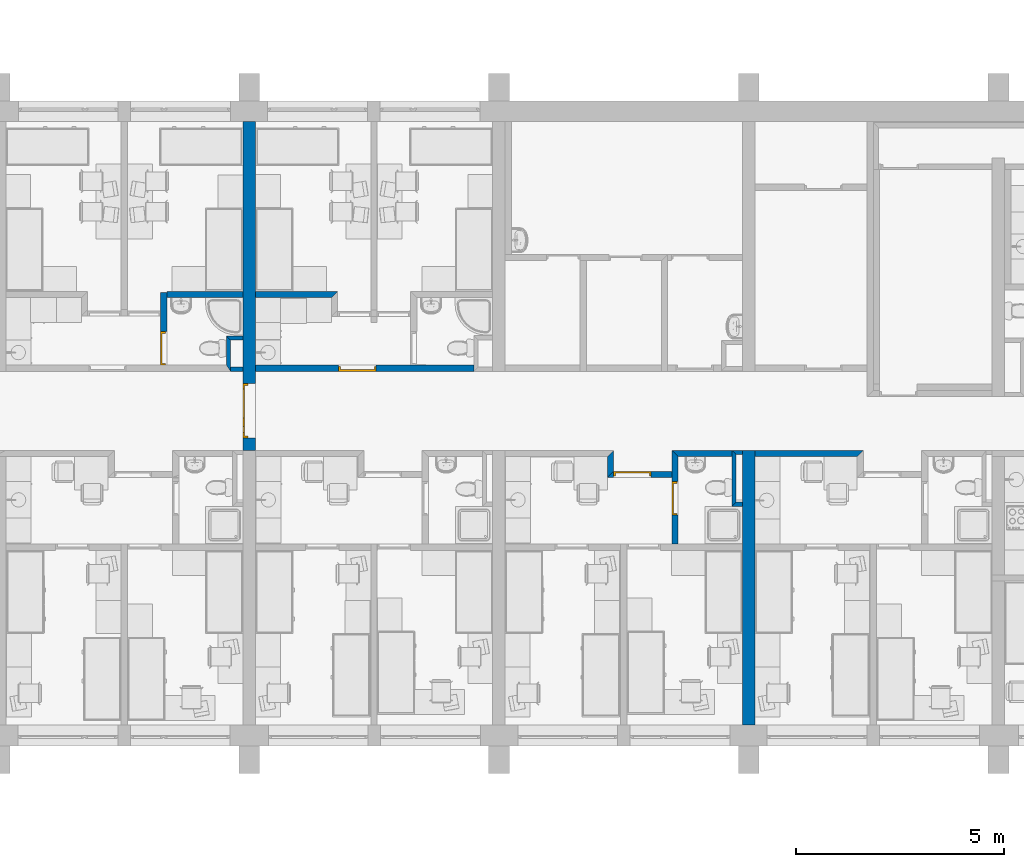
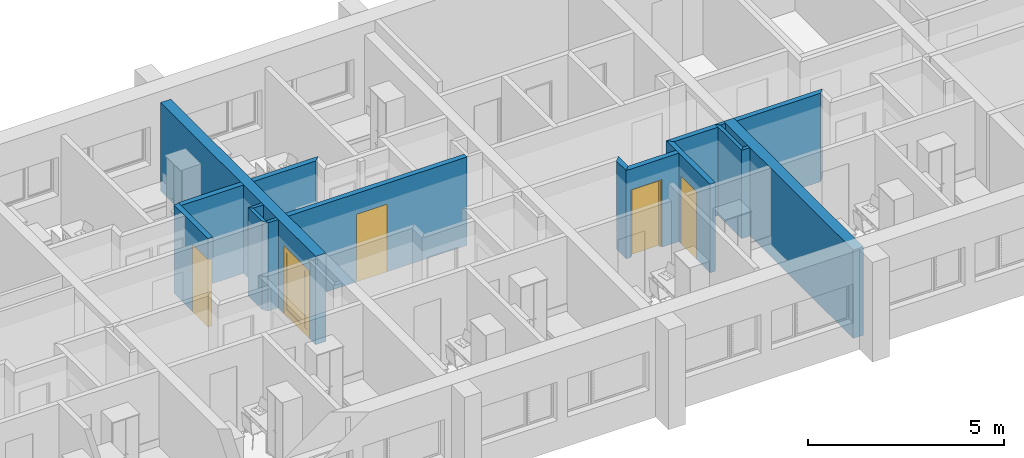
# One storey, part 7 of 172: 17 walls, 5 doors, 5 openings.
"""IFC2X3 building model written with IfcOpenShell, lengths in millimetres."""

from ifc_helpers import new_model, entity, si_unit, converted_unit, money_unit, direction, frame, origin_with_axes, place, context, subcontext, project, spatial, polyline, outline, extrude, open_shell, faceted_brep, surface_model, source, transform, mapped, material, material_list, layer, layer_set, layer_usage, type_object, element, fill, save


model = new_model("IFC2X3")

# Units and contexts
model_context = context("Model", 3, precision=1e-05, world=origin_with_axes(), true_north=direction((0.0, 1.0)))
body_context = subcontext(model_context, "Body", "Model", "MODEL_VIEW")
ifc_project = project(units=[si_unit("LENGTHUNIT", "METRE", prefix="MILLI"), si_unit("AREAUNIT", "SQUARE_METRE"), si_unit("VOLUMEUNIT", "CUBIC_METRE"), converted_unit("PLANEANGLEUNIT", "DEGREE", entity("IfcPlaneAngleMeasure", 0.0174532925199), si_unit("PLANEANGLEUNIT", "RADIAN"), dimensions=[0, 0, 0, 0, 0, 0, 0]), si_unit("SOLIDANGLEUNIT", "STERADIAN"), money_unit("USD"), converted_unit("TIMEUNIT", "Year", entity("IfcTimeMeasure", 31556926.0), si_unit("TIMEUNIT", "SECOND"), dimensions=[0, 0, 0, 0, 0, 0, 0]), si_unit("MASSUNIT", "GRAM"), si_unit("THERMODYNAMICTEMPERATUREUNIT", "DEGREE_CELSIUS"), si_unit("LUMINOUSINTENSITYUNIT", "LUMEN")], contexts=[model_context])

# Site, building, storey
site_placement = place(None, origin_with_axes())
site = spatial("IfcSite", under=ifc_project, at=site_placement, Name="Site", CompositionType="ELEMENT")
building_placement = place(site_placement, origin_with_axes())
building = spatial("IfcBuilding", under=site, at=building_placement, Name="Building", CompositionType="ELEMENT")
storey_placement = place(building_placement, frame((0.0, 0.0, 3200.0), z_axis=(0.0, 0.0, 1.0), x_axis=(1.0, 0.0, 0.0)))
storey = spatial("IfcBuildingStorey", under=building, at=storey_placement, Name="3KORRUS", CompositionType="ELEMENT", Elevation=3200.0)

# Wall, opening, door
ifc_material_1 = material(Name="UmbKipsplaat")
ifc_layer_1 = layer(ifc_material_1, 13.0, ventilated="UNKNOWN")
ifc_layer_2 = layer(ifc_material_1, 13.0, ventilated="UNKNOWN")
ifc_material_2 = material(Name="SOOJUSTUS MINERAALVILL")
ifc_layer_3 = layer(ifc_material_2, 98.0, ventilated="UNKNOWN")
ifc_layer_4 = layer(ifc_material_1, 13.0, ventilated="UNKNOWN")
ifc_layer_5 = layer(ifc_material_1, 13.0, ventilated="UNKNOWN")
ifc_layer_set_1 = layer_set([ifc_layer_1, ifc_layer_2, ifc_layer_3, ifc_layer_4, ifc_layer_5], Name="kipssein150")
ifc_layer_usage_1 = layer_usage(ifc_layer_set_1, "AXIS2", "POSITIVE", -150.0)
wall_type_1 = type_object("IfcWallType", Name="kipssein150 150", PredefinedType="NOTDEFINED")
wall_1_placement = place(storey_placement, frame((-25984.201689, -15289.2398994, 0.0), z_axis=(0.0, 0.0, 1.0), x_axis=(0.0, 1.0, 0.0)))
wall_1 = element("IfcWallStandardCase", 1, at=wall_1_placement, inside=storey, type_object=wall_type_1, material=ifc_layer_usage_1, Name="SS1", ObjectType="SS1", context=body_context, shape_type="SweptSolid", body=[
    extrude(outline(polyline([(0.0, -150.0), (2099.8693268, -150.0), (2249.8693268, 0.0), (0.0, 0.0), (0.0, -150.0)])), origin_with_axes(), (0.0, 0.0, 1.0), 2750.0),
])
opening_1_placement = place(wall_1_placement, frame((1099.78749111, 0.0, 0.0), z_axis=(0.0, 0.0, 1.0), x_axis=(1.0, 0.0, 0.0)))
opening_1 = element("IfcOpeningElement", 2, at=opening_1_placement, cuts=wall_1, Name="SU3-2", context=body_context, shape_type="SweptSolid", body=[
    extrude(outline(polyline([(-400.0, -2100.0), (400.0, -2100.0), (400.0, 0.0), (-400.0, 0.0), (-400.0, -2100.0)])), frame((0.0, -150.0, 0.0), z_axis=(0.0, 1.0, 0.0), x_axis=(1.0, 0.0, 0.0)), (0.0, 0.0, 1.0), 450.0),
])
ifc_material_3 = material(Name="Background")
ifc_material_list = material_list([ifc_material_3])
door_style_1 = type_object("IfcDoorStyle", Name="Door 19", ConstructionType="NOTDEFINED", OperationType="SINGLE_SWING_RIGHT", ParameterTakesPrecedence=False, Sizeable=False)
shared_shape_1 = source(origin_with_axes(), body_context, "Body", "Brep", [
    faceted_brep([(-360.0, -40.0, 0.0), (-360.0, -40.0, 2060.0), (-360.0, -115.0, 2060.0), (-360.0, -115.0, 0.0), (-372.0, -40.0, 2060.0), (-372.0, -40.0, 0.0), (-372.0, 0.0, 2060.0), (-400.0, 0.0, 2060.0), (-400.0, -115.0, 2060.0), (-400.0, -115.0, 0.0), (-400.0, 0.0, 0.0), (-372.0, 0.0, 0.0)], [[[0, 1, 2, 3]], [[4, 1, 0, 5]], [[4, 6, 7, 8, 2, 1]], [[2, 8, 9, 3]], [[5, 0, 3, 9, 10, 11]], [[6, 4, 5, 11]], [[6, 11, 10, 7]], [[9, 8, 7, 10]]]),
    faceted_brep([(372.0, -40.0, 2060.0), (360.0, -40.0, 2060.0), (360.0, -115.0, 2060.0), (400.0, -115.0, 2060.0), (400.0, 0.0, 2060.0), (372.0, 0.0, 2060.0), (372.0, -40.0, 0.0), (360.0, -40.0, 0.0), (360.0, -115.0, 0.0), (400.0, -115.0, 0.0), (400.0, 0.0, 0.0), (372.0, 0.0, 0.0)], [[[0, 1, 2, 3, 4, 5]], [[1, 0, 6, 7]], [[1, 7, 8, 2]], [[2, 8, 9, 3]], [[3, 9, 10, 4]], [[11, 5, 4, 10]], [[0, 5, 11, 6]], [[6, 11, 10, 9, 8, 7]]]),
    faceted_brep([(-372.0, 0.0, 2072.0), (-372.0, 0.0, 2060.0), (-400.0, 0.0, 2060.0), (-400.0, 0.0, 2100.0), (400.0, 0.0, 2100.0), (400.0, 0.0, 2060.0), (372.0, 0.0, 2060.0), (372.0, 0.0, 2072.0), (-372.0, -40.0, 2072.0), (-372.0, -40.0, 2060.0), (-360.0, -40.0, 2060.0), (-360.0, -115.0, 2060.0), (-400.0, -115.0, 2060.0), (-400.0, -115.0, 2100.0), (400.0, -115.0, 2100.0), (400.0, -115.0, 2060.0), (372.0, -40.0, 2060.0), (360.0, -115.0, 2060.0), (360.0, -40.0, 2060.0), (372.0, -40.0, 2072.0)], [[[0, 1, 2, 3, 4, 5, 6, 7]], [[1, 0, 8, 9]], [[9, 10, 11, 12, 2, 1]], [[12, 13, 3, 2]], [[13, 14, 4, 3]], [[14, 15, 5, 4]], [[16, 6, 5, 15, 17, 18]], [[7, 6, 16, 19]], [[0, 7, 19, 8]], [[16, 18, 10, 9, 8, 19]], [[10, 18, 17, 11]], [[15, 14, 13, 12, 11, 17]]]),
    faceted_brep([(372.0, 0.0, 0.0), (372.0, -40.0, 0.0), (-372.0, -40.0, 0.0), (-372.0, 0.0, 0.0), (372.0, 0.0, 2072.0), (372.0, -40.0, 2072.0), (-372.0, -40.0, 2072.0), (-372.0, 0.0, 2072.0)], [[[0, 1, 2, 3]], [[4, 5, 1, 0]], [[1, 5, 6, 2]], [[3, 2, 6, 7]], [[0, 3, 7, 4]], [[7, 6, 5, 4]]]),
])
door_1_placement = place(opening_1_placement, frame((-400.0, 0.0, 0.0), z_axis=(0.0, 0.0, 1.0), x_axis=(1.0, 0.0, 0.0)))
door_1 = element("IfcDoor", 3, at=door_1_placement, inside=storey, type_object=door_style_1, material=ifc_material_list, Name="SU3-2", ObjectType="WC-uks", OverallHeight=2100.0, OverallWidth=800.0, context=body_context, shape_type="MappedRepresentation", body=[
    mapped(shared_shape_1, transform((400.0, 0.0, 0.0))),
])
fill(opening_1, door_1)

ifc_layer_usage_2 = layer_usage(ifc_layer_set_1, "AXIS2", "POSITIVE", 0.0)
wall_2_placement = place(storey_placement, frame((-25984.201689, -13539.4524083, 0.0), z_axis=(0.0, 0.0, 1.0), x_axis=(-1.0, 0.0, 0.0)))
wall_2 = element("IfcWallStandardCase", 4, at=wall_2_placement, inside=storey, type_object=wall_type_1, material=ifc_layer_usage_2, Name="SS1", ObjectType="SS1", context=body_context, shape_type="SweptSolid", body=[
    extrude(outline(polyline([(0.0, 0.0), (1399.6606794, 0.0), (1549.6606794, 150.0), (0.0, 150.0), (0.0, 0.0)])), origin_with_axes(), (0.0, 0.0, 1.0), 2750.0),
])
opening_2_placement = place(wall_2_placement, frame((949.660679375, 0.0, 0.0), z_axis=(0.0, 0.0, 1.0), x_axis=(1.0, 0.0, 0.0)))
opening_2 = element("IfcOpeningElement", 5, at=opening_2_placement, cuts=wall_2, Name="SU2-6", context=body_context, shape_type="SweptSolid", body=[
    extrude(outline(polyline([(-450.0, -2100.0), (450.0, -2100.0), (450.0, 0.0), (-450.0, 0.0), (-450.0, -2100.0)])), frame((0.0, 150.0, 0.0), z_axis=(0.0, 1.0, 0.0), x_axis=(1.0, 0.0, 0.0)), (0.0, 0.0, -1.0), 450.0),
])
door_style_2 = type_object("IfcDoorStyle", Name="Door 19", ConstructionType="NOTDEFINED", OperationType="SINGLE_SWING_LEFT", ParameterTakesPrecedence=False, Sizeable=False)
shared_shape_2 = source(origin_with_axes(), body_context, "Body", "Brep", [
    faceted_brep([(410.0, -40.0, 0.0), (410.0, -115.0, 0.0), (410.0, -115.0, 2060.0), (410.0, -40.0, 2060.0), (422.0, -40.0, 0.0), (422.0, 0.0, 0.0), (450.0, 0.0, 0.0), (450.0, -115.0, 0.0), (450.0, -115.0, 2060.0), (422.0, -40.0, 2060.0), (450.0, 0.0, 2060.0), (422.0, 0.0, 2060.0)], [[[0, 1, 2, 3]], [[4, 5, 6, 7, 1, 0]], [[2, 1, 7, 8]], [[9, 3, 2, 8, 10, 11]], [[9, 4, 0, 3]], [[11, 5, 4, 9]], [[11, 10, 6, 5]], [[7, 6, 10, 8]]]),
    faceted_brep([(-422.0, -40.0, 2060.0), (-422.0, 0.0, 2060.0), (-450.0, 0.0, 2060.0), (-450.0, -115.0, 2060.0), (-410.0, -115.0, 2060.0), (-410.0, -40.0, 2060.0), (-422.0, -40.0, 0.0), (-422.0, 0.0, 0.0), (-450.0, 0.0, 0.0), (-450.0, -115.0, 0.0), (-410.0, -115.0, 0.0), (-410.0, -40.0, 0.0)], [[[0, 1, 2, 3, 4, 5]], [[0, 6, 7, 1]], [[7, 8, 2, 1]], [[3, 2, 8, 9]], [[4, 3, 9, 10]], [[5, 4, 10, 11]], [[5, 11, 6, 0]], [[6, 11, 10, 9, 8, 7]]]),
    faceted_brep([(422.0, 0.0, 2072.0), (-422.0, 0.0, 2072.0), (-422.0, 0.0, 2060.0), (-450.0, 0.0, 2060.0), (-450.0, 0.0, 2100.0), (450.0, 0.0, 2100.0), (450.0, 0.0, 2060.0), (422.0, 0.0, 2060.0), (422.0, -40.0, 2072.0), (-422.0, -40.0, 2072.0), (-422.0, -40.0, 2060.0), (-410.0, -40.0, 2060.0), (-410.0, -115.0, 2060.0), (-450.0, -115.0, 2060.0), (-450.0, -115.0, 2100.0), (450.0, -115.0, 2100.0), (450.0, -115.0, 2060.0), (422.0, -40.0, 2060.0), (410.0, -115.0, 2060.0), (410.0, -40.0, 2060.0)], [[[0, 1, 2, 3, 4, 5, 6, 7]], [[0, 8, 9, 1]], [[1, 9, 10, 2]], [[10, 11, 12, 13, 3, 2]], [[14, 4, 3, 13]], [[15, 5, 4, 14]], [[16, 6, 5, 15]], [[17, 7, 6, 16, 18, 19]], [[7, 17, 8, 0]], [[10, 9, 8, 17, 19, 11]], [[19, 18, 12, 11]], [[13, 12, 18, 16, 15, 14]]]),
    faceted_brep([(-422.0, 0.0, 0.0), (422.0, 0.0, 0.0), (422.0, -40.0, 0.0), (-422.0, -40.0, 0.0), (-422.0, 0.0, 2072.0), (422.0, 0.0, 2072.0), (422.0, -40.0, 2072.0), (-422.0, -40.0, 2072.0)], [[[0, 1, 2, 3]], [[0, 4, 5, 1]], [[1, 5, 6, 2]], [[3, 2, 6, 7]], [[4, 0, 3, 7]], [[5, 4, 7, 6]]]),
])
door_2_placement = place(opening_2_placement, frame((450.0, 0.0, 0.0), z_axis=(0.0, 0.0, 1.0), x_axis=(-1.0, 0.0, 0.0)))
door_2 = element("IfcDoor", 6, at=door_2_placement, inside=storey, type_object=door_style_2, material=ifc_material_list, Name="SU2-6", ObjectType="Korteri välisuks", OverallHeight=2100.0, OverallWidth=900.0, context=body_context, shape_type="MappedRepresentation", body=[
    mapped(shared_shape_2, transform((450.0, 0.0, 0.0))),
])
fill(opening_2, door_2)

# Walls
ifc_layer_usage_3 = layer_usage(ifc_layer_set_1, "AXIS2", "POSITIVE", 0.0)
wall_3_placement = place(storey_placement, frame((-38271.5850987, -9367.37850445, 0.0), z_axis=(0.0, 0.0, 1.0), x_axis=(1.0, 0.0, 0.0)))
element("IfcWallStandardCase", 7, at=wall_3_placement, inside=storey, type_object=wall_type_1, material=ifc_layer_usage_3, Name="SS1", ObjectType="SS1", context=body_context, shape_type="SweptSolid", body=[
    extrude(outline(polyline([(150.0, 0.0), (1981.2883954, 0.0), (1981.2883954, 150.0), (150.0, 150.0), (150.0, 0.0)])), origin_with_axes(), (0.0, 0.0, 1.0), 2750.0),
])
ifc_layer_usage_4 = layer_usage(ifc_layer_set_1, "AXIS2", "POSITIVE", -150.0)
wall_4_placement = place(storey_placement, frame((-25984.201689, -13039.3705726, 0.0), z_axis=(0.0, 0.0, 1.0), x_axis=(1.0, 0.0, 0.0)))
element("IfcWallStandardCase", 8, at=wall_4_placement, inside=storey, type_object=wall_type_1, material=ifc_layer_usage_4, Name="SS1", ObjectType="SS1", context=body_context, shape_type="SweptSolid", body=[
    extrude(outline(polyline([(150.0, -150.0), (1444.19338105, -150.0), (1444.19338105, 0.0), (0.0, 0.0), (150.0, -150.0)])), origin_with_axes(), (0.0, 0.0, 1.0), 2750.0),
])
ifc_layer_usage_5 = layer_usage(ifc_layer_set_1, "AXIS2", "POSITIVE", 0.0)
wall_5_placement = place(storey_placement, frame((-27533.8623684, -13039.2398994, 0.0), z_axis=(0.0, 0.0, 1.0), x_axis=(0.0, -1.0, 0.0)))
element("IfcWallStandardCase", 9, at=wall_5_placement, inside=storey, type_object=wall_type_1, material=ifc_layer_usage_5, Name="SS1", ObjectType="SS1", context=body_context, shape_type="SweptSolid", body=[
    extrude(outline(polyline([(150.0, 0.0), (650.2125089, 0.0), (500.2125089, 150.0), (0.0, 150.0), (150.0, 0.0)])), origin_with_axes(), (0.0, 0.0, 1.0), 2750.0),
])

# Wall, opening, door
ifc_layer_usage_6 = layer_usage(ifc_layer_set_1, "AXIS2", "POSITIVE", 0.0)
wall_6_placement = place(storey_placement, frame((-38271.5850987, -9243.37850445, 0.0), z_axis=(0.0, 0.0, 1.0), x_axis=(0.0, -1.0, 0.0)))
wall_6 = element("IfcWallStandardCase", 10, at=wall_6_placement, inside=storey, type_object=wall_type_1, material=ifc_layer_usage_6, Name="SS1", ObjectType="SS1", context=body_context, shape_type="SweptSolid", body=[
    extrude(outline(polyline([(0.0, 0.0), (1743.22560435, 0.0), (1743.22560435, 150.0), (0.0, 150.0), (0.0, 0.0)])), origin_with_axes(), (0.0, 0.0, 1.0), 2750.0),
])
opening_3_placement = place(wall_6_placement, frame((1343.22560435, 0.0, 0.0), z_axis=(0.0, 0.0, 1.0), x_axis=(1.0, 0.0, 0.0)))
opening_3 = element("IfcOpeningElement", 11, at=opening_3_placement, cuts=wall_6, Name="SU3-3", context=body_context, shape_type="SweptSolid", body=[
    extrude(outline(polyline([(-400.0, -2100.0), (400.0, -2100.0), (400.0, 0.0), (-400.0, 0.0), (-400.0, -2100.0)])), frame((0.0, 150.0, 0.0), z_axis=(0.0, 1.0, 0.0), x_axis=(1.0, 0.0, 0.0)), (0.0, 0.0, -1.0), 450.0),
])
shared_shape_3 = source(origin_with_axes(), body_context, "Body", "Brep", [
    faceted_brep([(360.0, -40.0, 0.0), (360.0, -115.0, 0.0), (360.0, -115.0, 2060.0), (360.0, -40.0, 2060.0), (372.0, -40.0, 0.0), (372.0, 0.0, 0.0), (400.0, 0.0, 0.0), (400.0, -115.0, 0.0), (400.0, -115.0, 2060.0), (372.0, -40.0, 2060.0), (400.0, 0.0, 2060.0), (372.0, 0.0, 2060.0)], [[[0, 1, 2, 3]], [[4, 5, 6, 7, 1, 0]], [[2, 1, 7, 8]], [[9, 3, 2, 8, 10, 11]], [[9, 4, 0, 3]], [[11, 5, 4, 9]], [[11, 10, 6, 5]], [[7, 6, 10, 8]]]),
    faceted_brep([(-372.0, -40.0, 2060.0), (-372.0, 0.0, 2060.0), (-400.0, 0.0, 2060.0), (-400.0, -115.0, 2060.0), (-360.0, -115.0, 2060.0), (-360.0, -40.0, 2060.0), (-372.0, -40.0, 0.0), (-372.0, 0.0, 0.0), (-400.0, 0.0, 0.0), (-400.0, -115.0, 0.0), (-360.0, -115.0, 0.0), (-360.0, -40.0, 0.0)], [[[0, 1, 2, 3, 4, 5]], [[0, 6, 7, 1]], [[7, 8, 2, 1]], [[3, 2, 8, 9]], [[4, 3, 9, 10]], [[5, 4, 10, 11]], [[5, 11, 6, 0]], [[6, 11, 10, 9, 8, 7]]]),
    faceted_brep([(372.0, 0.0, 2072.0), (-372.0, 0.0, 2072.0), (-372.0, 0.0, 2060.0), (-400.0, 0.0, 2060.0), (-400.0, 0.0, 2100.0), (400.0, 0.0, 2100.0), (400.0, 0.0, 2060.0), (372.0, 0.0, 2060.0), (372.0, -40.0, 2072.0), (-372.0, -40.0, 2072.0), (-372.0, -40.0, 2060.0), (-360.0, -40.0, 2060.0), (-360.0, -115.0, 2060.0), (-400.0, -115.0, 2060.0), (-400.0, -115.0, 2100.0), (400.0, -115.0, 2100.0), (400.0, -115.0, 2060.0), (372.0, -40.0, 2060.0), (360.0, -115.0, 2060.0), (360.0, -40.0, 2060.0)], [[[0, 1, 2, 3, 4, 5, 6, 7]], [[0, 8, 9, 1]], [[1, 9, 10, 2]], [[10, 11, 12, 13, 3, 2]], [[14, 4, 3, 13]], [[15, 5, 4, 14]], [[16, 6, 5, 15]], [[17, 7, 6, 16, 18, 19]], [[7, 17, 8, 0]], [[10, 9, 8, 17, 19, 11]], [[19, 18, 12, 11]], [[13, 12, 18, 16, 15, 14]]]),
    faceted_brep([(-372.0, 0.0, 0.0), (372.0, 0.0, 0.0), (372.0, -40.0, 0.0), (-372.0, -40.0, 0.0), (-372.0, 0.0, 2072.0), (372.0, 0.0, 2072.0), (372.0, -40.0, 2072.0), (-372.0, -40.0, 2072.0)], [[[0, 1, 2, 3]], [[0, 4, 5, 1]], [[1, 5, 6, 2]], [[3, 2, 6, 7]], [[4, 0, 3, 7]], [[5, 4, 7, 6]]]),
])
door_3_placement = place(opening_3_placement, frame((400.0, 0.0, 0.0), z_axis=(0.0, 0.0, 1.0), x_axis=(-1.0, 0.0, 0.0)))
door_3 = element("IfcDoor", 12, at=door_3_placement, inside=storey, type_object=door_style_2, material=ifc_material_list, Name="SU3-3", ObjectType="WC-uks", OverallHeight=2100.0, OverallWidth=800.0, context=body_context, shape_type="MappedRepresentation", body=[
    mapped(shared_shape_3, transform((400.0, 0.0, 0.0))),
])
fill(opening_3, door_3)

ifc_layer_usage_7 = layer_usage(ifc_layer_set_1, "AXIS2", "POSITIVE", 0.0)
wall_7_placement = place(storey_placement, frame((-35990.2967033, -11136.6041088, 0.0), z_axis=(0.0, 0.0, 1.0), x_axis=(1.0, 0.0, 0.0)))
wall_7 = element("IfcWallStandardCase", 13, at=wall_7_placement, inside=storey, type_object=wall_type_1, material=ifc_layer_usage_7, Name="SS1", ObjectType="SS1", context=body_context, shape_type="SweptSolid", body=[
    extrude(outline(polyline([(0.0, 0.0), (5250.0, 0.0), (5250.0, 150.0), (0.0, 150.0), (0.0, 0.0)])), origin_with_axes(), (0.0, 0.0, 1.0), 2750.0),
])
opening_4_placement = place(wall_7_placement, frame((2449.55318041, 0.0, 0.0), z_axis=(0.0, 0.0, 1.0), x_axis=(1.0, 0.0, 0.0)))
opening_4 = element("IfcOpeningElement", 14, at=opening_4_placement, cuts=wall_7, Name="SU2-6", context=body_context, shape_type="SweptSolid", body=[
    extrude(outline(polyline([(-450.0, -2100.0), (450.0, -2100.0), (450.0, 0.0), (-450.0, 0.0), (-450.0, -2100.0)])), frame((0.0, 150.0, 0.0), z_axis=(0.0, 1.0, 0.0), x_axis=(1.0, 0.0, 0.0)), (0.0, 0.0, -1.0), 450.0),
])
door_4_placement = place(opening_4_placement, frame((450.0, 0.0, 0.0), z_axis=(0.0, 0.0, 1.0), x_axis=(-1.0, 0.0, 0.0)))
door_4 = element("IfcDoor", 15, at=door_4_placement, inside=storey, type_object=door_style_2, material=ifc_material_list, Name="SU2-6", ObjectType="Korteri välisuks", OverallHeight=2100.0, OverallWidth=900.0, context=body_context, shape_type="MappedRepresentation", body=[
    mapped(shared_shape_2, transform((450.0, 0.0, 0.0))),
])
fill(opening_4, door_4)

# Walls
ifc_layer_usage_8 = layer_usage(ifc_layer_set_1, "AXIS2", "POSITIVE", -150.0)
wall_8_placement = place(storey_placement, frame((-34015.7435229, -9366.37850445, 0.0), z_axis=(0.0, 0.0, 1.0), x_axis=(-1.0, 0.0, 0.0)))
element("IfcWallStandardCase", 16, at=wall_8_placement, inside=storey, type_object=wall_type_1, material=ifc_layer_usage_8, Name="SS1", ObjectType="SS1", context=body_context, shape_type="SweptSolid", body=[
    extrude(outline(polyline([(0.0, -150.0), (1974.5531804, -150.0), (1974.5531804, 0.0), (150.0, 0.0), (0.0, -150.0)])), origin_with_axes(), (0.0, 0.0, 1.0), 2750.0),
])
ifc_layer_usage_9 = layer_usage(ifc_layer_set_1, "AXIS2", "POSITIVE", 0.0)
wall_9_placement = place(storey_placement, frame((-21533.8623684, -13039.2398994, 0.0), z_axis=(0.0, 0.0, 1.0), x_axis=(-1.0, 0.0, 0.0)))
element("IfcWallStandardCase", 17, at=wall_9_placement, inside=storey, type_object=wall_type_1, material=ifc_layer_usage_9, Name="SS1", ObjectType="SS1", context=body_context, shape_type="SweptSolid", body=[
    extrude(outline(polyline([(-150.0, 0.0), (2456.4343349, 0.0), (2456.4343349, 150.0), (0.0, 150.0), (-150.0, 0.0)])), origin_with_axes(), (0.0, 0.0, 1.0), 2750.0),
])
ifc_material_4 = material(Name="Olemasolevad seinad tellis, uus viimistlus")
ifc_layer_6 = layer(ifc_material_4, 300.0, ventilated="UNKNOWN")
ifc_layer_set_2 = layer_set([ifc_layer_6], Name="Olemasolevad seinad tellis, uus viimistlus  300")
ifc_layer_usage_10 = layer_usage(ifc_layer_set_2, "AXIS2", "POSITIVE", 0.0)
wall_type_2 = type_object("IfcWallType", Name="Olemasolevad seinad tellis, uus viimistlus  300", PredefinedType="NOTDEFINED")
wall_10_placement = place(storey_placement, frame((-23990.2967033, -19639.2398994, 0.0), z_axis=(0.0, 0.0, 1.0), x_axis=(0.0, 1.0, 0.0)))
element("IfcWallStandardCase", 18, at=wall_10_placement, inside=storey, type_object=wall_type_2, material=ifc_layer_usage_10, Name="KS1", ObjectType="KS1", context=body_context, shape_type="SweptSolid", body=[
    extrude(outline(polyline([(0.0, 0.0), (6602.86932682, 0.0), (6602.86932682, 300.0), (0.0, 300.0), (0.0, 0.0)])), origin_with_axes(), (0.0, 0.0, 1.0), 2750.0),
])

# Wall, opening, door
ifc_layer_usage_11 = layer_usage(ifc_layer_set_2, "AXIS2", "POSITIVE", 0.0)
wall_11_placement = place(storey_placement, frame((-35990.2967033, -13036.3705726, 0.0), z_axis=(0.0, 0.0, 1.0), x_axis=(0.0, 1.0, 0.0)))
wall_11 = element("IfcWallStandardCase", 19, at=wall_11_placement, inside=storey, type_object=wall_type_2, material=ifc_layer_usage_11, Name="KS1", ObjectType="KS1", context=body_context, shape_type="SweptSolid", body=[
    extrude(outline(polyline([(0.0, 0.0), (7896.7664638, 0.0), (7896.7664638, 300.0), (0.0, 300.0), (0.0, 0.0)])), origin_with_axes(), (0.0, 0.0, 1.0), 2750.0),
])
opening_5_placement = place(wall_11_placement, frame((949.793922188, 0.0, 0.0), z_axis=(0.0, 0.0, 1.0), x_axis=(1.0, 0.0, 0.0)))
opening_5 = element("IfcOpeningElement", 20, at=opening_5_placement, cuts=wall_11, Name="SU4-22", context=body_context, shape_type="SweptSolid", body=[
    extrude(outline(polyline([(-650.0, -2100.0), (650.0, -2100.0), (650.0, 0.0), (-650.0, 0.0), (-650.0, -2100.0)])), frame((0.0, -300.0, 0.0), z_axis=(0.0, 1.0, 0.0), x_axis=(1.0, 0.0, 0.0)), (0.0, 0.0, 1.0), 900.0),
])
door_style_3 = type_object("IfcDoorStyle", Name="Double Door Asymmetric 19", ConstructionType="NOTDEFINED", OperationType="DOUBLE_DOOR_SINGLE_SWING", ParameterTakesPrecedence=False, Sizeable=False)
shared_shape_4 = source(origin_with_axes(), body_context, "Body", "SurfaceModel", [
    faceted_brep([(-610.0, -40.0, 0.0), (-610.0, -40.0, 2060.0), (-610.0, -115.0, 2060.0), (-610.0, -115.0, 0.0), (-622.0, -40.0, 2060.0), (-622.0, -40.0, 0.0), (-622.0, 0.0, 2060.0), (-650.0, 0.0, 2060.0), (-650.0, -115.0, 2060.0), (-650.0, -115.0, 0.0), (-650.0, 0.0, 0.0), (-622.0, 0.0, 0.0)], [[[0, 1, 2, 3]], [[4, 1, 0, 5]], [[4, 6, 7, 8, 2, 1]], [[2, 8, 9, 3]], [[5, 0, 3, 9, 10, 11]], [[6, 4, 5, 11]], [[6, 11, 10, 7]], [[9, 8, 7, 10]]]),
    faceted_brep([(622.0, -40.0, 2060.0), (610.0, -40.0, 2060.0), (610.0, -115.0, 2060.0), (650.0, -115.0, 2060.0), (650.0, 0.0, 2060.0), (622.0, 0.0, 2060.0), (622.0, -40.0, 0.0), (610.0, -40.0, 0.0), (610.0, -115.0, 0.0), (650.0, -115.0, 0.0), (650.0, 0.0, 0.0), (622.0, 0.0, 0.0)], [[[0, 1, 2, 3, 4, 5]], [[1, 0, 6, 7]], [[1, 7, 8, 2]], [[2, 8, 9, 3]], [[3, 9, 10, 4]], [[11, 5, 4, 10]], [[0, 5, 11, 6]], [[6, 11, 10, 9, 8, 7]]]),
    faceted_brep([(-622.0, 0.0, 2072.0), (-622.0, 0.0, 2060.0), (-650.0, 0.0, 2060.0), (-650.0, 0.0, 2100.0), (650.0, 0.0, 2100.0), (650.0, 0.0, 2060.0), (622.0, 0.0, 2060.0), (622.0, 0.0, 2072.0), (-622.0, -40.0, 2072.0), (-622.0, -40.0, 2060.0), (-610.0, -40.0, 2060.0), (-610.0, -115.0, 2060.0), (-650.0, -115.0, 2060.0), (-650.0, -115.0, 2100.0), (650.0, -115.0, 2100.0), (650.0, -115.0, 2060.0), (622.0, -40.0, 2060.0), (610.0, -115.0, 2060.0), (610.0, -40.0, 2060.0), (622.0, -40.0, 2072.0)], [[[0, 1, 2, 3, 4, 5, 6, 7]], [[1, 0, 8, 9]], [[9, 10, 11, 12, 2, 1]], [[12, 13, 3, 2]], [[13, 14, 4, 3]], [[14, 15, 5, 4]], [[16, 6, 5, 15, 17, 18]], [[7, 6, 16, 19]], [[0, 7, 19, 8]], [[16, 18, 10, 9, 8, 19]], [[10, 18, 17, 11]], [[15, 14, 13, 12, 11, 17]]]),
    faceted_brep([(622.0, 0.0, 200.0), (622.0, -40.0, 200.0), (522.0, -40.0, 200.0), (522.0, 0.0, 200.0), (622.0, 0.0, 1972.0), (622.0, -40.0, 1972.0), (522.0, -40.0, 1972.0), (522.0, 0.0, 1972.0)], [[[0, 1, 2, 3]], [[4, 5, 1, 0]], [[1, 5, 6, 2]], [[3, 2, 6, 7]], [[0, 3, 7, 4]], [[7, 6, 5, 4]]]),
    faceted_brep([(-278.0, 0.0, 200.0), (-278.0, -40.0, 200.0), (-278.0, -40.0, 1972.0), (-278.0, 0.0, 1972.0), (-178.0, 0.0, 200.0), (-178.0, -40.0, 200.0), (-178.0, -40.0, 1972.0), (-178.0, 0.0, 1972.0)], [[[0, 1, 2, 3]], [[4, 5, 1, 0]], [[1, 5, 6, 2]], [[3, 2, 6, 7]], [[0, 3, 7, 4]], [[7, 6, 5, 4]]]),
    faceted_brep([(622.0, 0.0, 0.0), (622.0, -40.0, 0.0), (-278.0, -40.0, 0.0), (-278.0, 0.0, 0.0), (622.0, 0.0, 200.0), (622.0, -40.0, 200.0), (522.0, -40.0, 200.0), (-178.0, -40.0, 200.0), (-278.0, -40.0, 200.0), (-278.0, 0.0, 200.0), (-178.0, 0.0, 200.0), (522.0, 0.0, 200.0)], [[[0, 1, 2, 3]], [[4, 5, 1, 0]], [[1, 5, 6, 7, 8, 2]], [[3, 2, 8, 9]], [[0, 3, 9, 10, 11, 4]], [[11, 6, 5, 4]], [[10, 7, 6, 11]], [[9, 8, 7, 10]]]),
    faceted_brep([(622.0, 0.0, 2072.0), (622.0, -40.0, 2072.0), (622.0, -40.0, 1972.0), (622.0, 0.0, 1972.0), (-278.0, 0.0, 2072.0), (-278.0, -40.0, 2072.0), (-278.0, -40.0, 1972.0), (-178.0, -40.0, 1972.0), (522.0, -40.0, 1972.0), (522.0, 0.0, 1972.0), (-178.0, 0.0, 1972.0), (-278.0, 0.0, 1972.0)], [[[0, 1, 2, 3]], [[4, 5, 1, 0]], [[1, 5, 6, 7, 8, 2]], [[3, 2, 8, 9]], [[0, 3, 9, 10, 11, 4]], [[11, 6, 5, 4]], [[10, 7, 6, 11]], [[9, 8, 7, 10]]]),
    surface_model("IfcShellBasedSurfaceModel", [(522.0, -14.0, 200.0), (-178.0, -14.0, 200.0), (-178.0, -14.0, 1972.0), (522.0, -14.0, 1972.0)], [open_shell([[[0, 1, 2, 3]]])]),
    surface_model("IfcShellBasedSurfaceModel", [(522.0, -26.0, 200.0), (522.0, -26.0, 1972.0), (-178.0, -26.0, 1972.0), (-178.0, -26.0, 200.0)], [open_shell([[[0, 1, 2, 3]]])]),
    faceted_brep([(-622.0, 0.0, 200.0), (-522.0, 0.0, 200.0), (-522.0, -40.0, 200.0), (-622.0, -40.0, 200.0), (-622.0, 0.0, 1972.0), (-522.0, 0.0, 1972.0), (-522.0, -40.0, 1972.0), (-622.0, -40.0, 1972.0)], [[[0, 1, 2, 3]], [[0, 4, 5, 1]], [[1, 5, 6, 2]], [[3, 2, 6, 7]], [[4, 0, 3, 7]], [[5, 4, 7, 6]]]),
    faceted_brep([(-278.0, 0.0, 200.0), (-278.0, 0.0, 1972.0), (-278.0, -40.0, 1972.0), (-278.0, -40.0, 200.0), (-378.0, 0.0, 200.0), (-378.0, 0.0, 1972.0), (-378.0, -40.0, 1972.0), (-378.0, -40.0, 200.0)], [[[0, 1, 2, 3]], [[0, 4, 5, 1]], [[1, 5, 6, 2]], [[3, 2, 6, 7]], [[4, 0, 3, 7]], [[5, 4, 7, 6]]]),
    faceted_brep([(-622.0, 0.0, 0.0), (-278.0, 0.0, 0.0), (-278.0, -40.0, 0.0), (-622.0, -40.0, 0.0), (-622.0, 0.0, 200.0), (-522.0, 0.0, 200.0), (-378.0, 0.0, 200.0), (-278.0, 0.0, 200.0), (-278.0, -40.0, 200.0), (-378.0, -40.0, 200.0), (-522.0, -40.0, 200.0), (-622.0, -40.0, 200.0)], [[[0, 1, 2, 3]], [[0, 4, 5, 6, 7, 1]], [[1, 7, 8, 2]], [[3, 2, 8, 9, 10, 11]], [[4, 0, 3, 11]], [[5, 4, 11, 10]], [[6, 5, 10, 9]], [[7, 6, 9, 8]]]),
    faceted_brep([(-622.0, 0.0, 2072.0), (-622.0, 0.0, 1972.0), (-622.0, -40.0, 1972.0), (-622.0, -40.0, 2072.0), (-278.0, 0.0, 2072.0), (-278.0, 0.0, 1972.0), (-378.0, 0.0, 1972.0), (-522.0, 0.0, 1972.0), (-522.0, -40.0, 1972.0), (-378.0, -40.0, 1972.0), (-278.0, -40.0, 1972.0), (-278.0, -40.0, 2072.0)], [[[0, 1, 2, 3]], [[0, 4, 5, 6, 7, 1]], [[1, 7, 8, 2]], [[3, 2, 8, 9, 10, 11]], [[4, 0, 3, 11]], [[5, 4, 11, 10]], [[6, 5, 10, 9]], [[7, 6, 9, 8]]]),
    surface_model("IfcShellBasedSurfaceModel", [(-522.0, -14.0, 200.0), (-522.0, -14.0, 1972.0), (-378.0, -14.0, 1972.0), (-378.0, -14.0, 200.0)], [open_shell([[[0, 1, 2, 3]]])]),
    surface_model("IfcShellBasedSurfaceModel", [(-522.0, -26.0, 200.0), (-378.0, -26.0, 200.0), (-378.0, -26.0, 1972.0), (-522.0, -26.0, 1972.0)], [open_shell([[[0, 1, 2, 3]]])]),
])
door_5_placement = place(opening_5_placement, frame((-650.0, 0.0, 0.0), z_axis=(0.0, 0.0, 1.0), x_axis=(1.0, 0.0, 0.0)))
door_5 = element("IfcDoor", 21, at=door_5_placement, inside=storey, type_object=door_style_3, material=ifc_material_list, Name="SU4-22", ObjectType="Trepkoja uks", OverallHeight=2100.0, OverallWidth=1300.0, context=body_context, shape_type="MappedRepresentation", body=[
    mapped(shared_shape_4, transform((650.0, 300.0, 0.0))),
])
fill(opening_5, door_5)

# Walls
ifc_material_5 = material(Name="krohv")
ifc_layer_7 = layer(ifc_material_5, 2.0, ventilated="UNKNOWN")
ifc_layer_8 = layer(ifc_material_5, 10.0, ventilated="UNKNOWN")
ifc_material_6 = material(Name="Kergplokk")
ifc_layer_9 = layer(ifc_material_6, 76.0, ventilated="UNKNOWN")
ifc_layer_10 = layer(ifc_material_5, 10.0, ventilated="UNKNOWN")
ifc_layer_11 = layer(ifc_material_5, 2.0, ventilated="UNKNOWN")
ifc_layer_set_3 = layer_set([ifc_layer_7, ifc_layer_8, ifc_layer_9, ifc_layer_10, ifc_layer_11], Name="Kergplokk Bauroc 100")
ifc_layer_usage_12 = layer_usage(ifc_layer_set_3, "AXIS2", "POSITIVE", 0.0)
wall_type_3 = type_object("IfcWallType", Name="Kergplokk Bauroc 100 100", PredefinedType="NOTDEFINED")
wall_12_placement = place(storey_placement, frame((-36290.2967033, -10287.3785045, 0.0), z_axis=(0.0, 0.0, 1.0), x_axis=(-1.0, 0.0, 0.0)))
element("IfcWallStandardCase", 22, at=wall_12_placement, inside=storey, type_object=wall_type_3, material=ifc_layer_usage_12, Name="SS2", ObjectType="SS2", context=body_context, shape_type="SweptSolid", body=[
    extrude(outline(polyline([(0.0, 0.0), (399.7116047, 0.0), (299.7116047, 100.0), (0.0, 100.0), (0.0, 0.0)])), origin_with_axes(), (0.0, 0.0, 1.0), 2750.0),
])
ifc_layer_usage_13 = layer_usage(ifc_layer_set_3, "AXIS2", "POSITIVE", 0.0)
wall_13_placement = place(storey_placement, frame((-36590.008308, -11136.6041088, 0.0), z_axis=(0.0, 0.0, 1.0), x_axis=(0.0, 1.0, 0.0)))
element("IfcWallStandardCase", 23, at=wall_13_placement, inside=storey, type_object=wall_type_3, material=ifc_layer_usage_13, Name="SS2", ObjectType="SS2", context=body_context, shape_type="SweptSolid", body=[
    extrude(outline(polyline([(0.0, 0.0), (749.2256043, 0.0), (849.2256043, 100.0), (150.0, 100.0), (0.0, 0.0)])), origin_with_axes(), (0.0, 0.0, 1.0), 2750.0),
])
ifc_layer_usage_14 = layer_usage(ifc_layer_set_3, "AXIS2", "POSITIVE", 0.0)
wall_14_placement = place(storey_placement, frame((-36590.008308, -11136.6041088, 0.0), z_axis=(0.0, 0.0, 1.0), x_axis=(1.0, 0.0, 0.0)))
element("IfcWallStandardCase", 24, at=wall_14_placement, inside=storey, type_object=wall_type_3, material=ifc_layer_usage_14, Name="SS2", ObjectType="SS2", context=body_context, shape_type="SweptSolid", body=[
    extrude(outline(polyline([(0.0, 0.0), (299.711604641, 0.0), (299.711604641, 100.0), (0.0, 100.0), (0.0, 0.0)])), origin_with_axes(), (0.0, 0.0, 1.0), 2750.0),
])
ifc_layer_usage_15 = layer_usage(ifc_layer_set_3, "AXIS2", "POSITIVE", -100.0)
wall_15_placement = place(storey_placement, frame((-24440.008308, -13039.3705726, 0.0), z_axis=(0.0, 0.0, 1.0), x_axis=(1.0, 0.0, 0.0)))
element("IfcWallStandardCase", 25, at=wall_15_placement, inside=storey, type_object=wall_type_3, material=ifc_layer_usage_15, Name="SS2", ObjectType="SS2", context=body_context, shape_type="SweptSolid", body=[
    extrude(outline(polyline([(0.0, -100.0), (149.711604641, -100.0), (149.711604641, 0.0), (-100.0, 0.0), (0.0, -100.0)])), origin_with_axes(), (0.0, 0.0, 1.0), 2750.0),
])
ifc_layer_usage_16 = layer_usage(ifc_layer_set_3, "AXIS2", "POSITIVE", -100.0)
wall_16_placement = place(storey_placement, frame((-24292.860749, -14380.4716262, 0.0), z_axis=(0.0, 0.0, 1.0), x_axis=(-1.0, 0.0, 0.0)))
element("IfcWallStandardCase", 26, at=wall_16_placement, inside=storey, type_object=wall_type_3, material=ifc_layer_usage_16, Name="SS2", ObjectType="SS2", context=body_context, shape_type="SweptSolid", body=[
    extrude(outline(polyline([(0.0, -100.0), (147.147559, -100.0), (247.147559, 0.0), (0.0, 0.0), (0.0, -100.0)])), origin_with_axes(), (0.0, 0.0, 1.0), 2750.0),
])
ifc_layer_usage_17 = layer_usage(ifc_layer_set_3, "AXIS2", "POSITIVE", -100.0)
wall_17_placement = place(storey_placement, frame((-24440.008308, -13039.3705726, 0.0), z_axis=(0.0, 0.0, 1.0), x_axis=(0.0, -1.0, 0.0)))
element("IfcWallStandardCase", 27, at=wall_17_placement, inside=storey, type_object=wall_type_3, material=ifc_layer_usage_17, Name="SS2", ObjectType="SS2", context=body_context, shape_type="SweptSolid", body=[
    extrude(outline(polyline([(0.0, -100.0), (1341.1010536, -100.0), (1241.1010536, 0.0), (100.0, 0.0), (0.0, -100.0)])), origin_with_axes(), (0.0, 0.0, 1.0), 2750.0),
])

save(model, "model.ifc")
